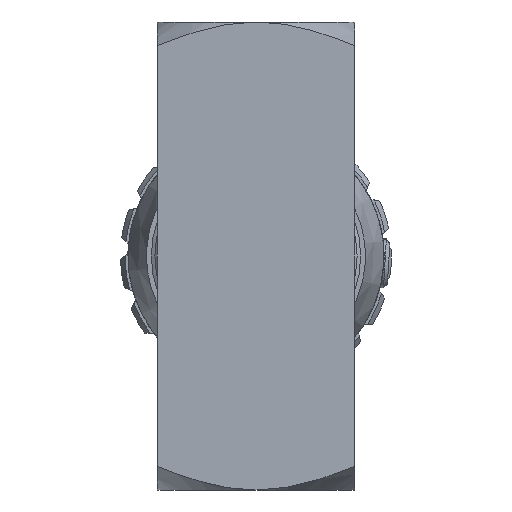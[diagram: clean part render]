
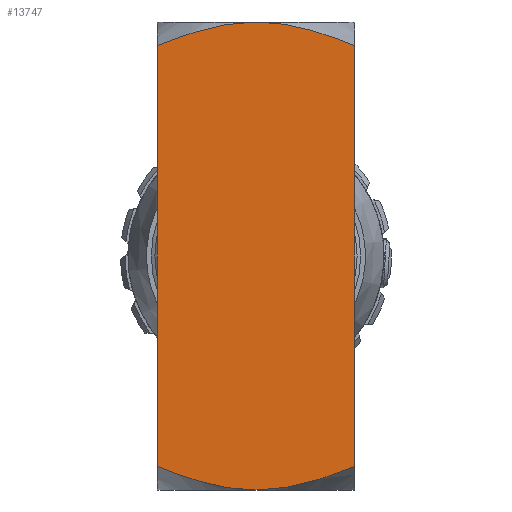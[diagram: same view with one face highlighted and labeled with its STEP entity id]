
A CAD part, front view. The second image highlights one B-rep face of the part: STEP entity #13747.
In plain terms, the highlighted planar face has unit normal (0, -1, 0).
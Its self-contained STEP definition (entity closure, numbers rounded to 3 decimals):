
#298 = CARTESIAN_POINT ( 'NONE',  ( -0.345, -8., 0. ) ) ;
#1124 = B_SPLINE_CURVE_WITH_KNOTS ( 'NONE', 3,
 ( #21951, #4081, #24972, #7065, #27985, #10016, #30972, #13056, #33915, #16083, #36934, #19070 ),
 .UNSPECIFIED., .F., .F.,
 ( 4, 2, 2, 2, 2, 4 ),
 ( 0.009, 0.011, 0.013, 0.015, 0.016, 0.017 ),
 .UNSPECIFIED. ) ;
#1387 = DIRECTION ( 'NONE',  ( 0., 0., 1. ) ) ;
#1778 = CARTESIAN_POINT ( 'NONE',  ( 8., -8., -1.913 ) ) ;
#2916 = VERTEX_POINT ( 'NONE', #36840 ) ;
#3330 = CARTESIAN_POINT ( 'NONE',  ( -1.384, -8., -0.064 ) ) ;
#4081 = CARTESIAN_POINT ( 'NONE',  ( -7.362, -8., -36.347 ) ) ;
#4272 = B_SPLINE_CURVE_WITH_KNOTS ( 'NONE', 3,
 ( #1778, #37535, #7816, #28722, #10763, #31722, #13777, #34686 ),
 .UNSPECIFIED., .F., .F.,
 ( 4, 2, 2, 4 ),
 ( 0.021, 0.023, 0.025, 0.029 ),
 .UNSPECIFIED. ) ;
#4401 = EDGE_CURVE ( 'NONE', #17566, #6275, #12526, .T. ) ;
#4480 = CARTESIAN_POINT ( 'NONE',  ( 0., -8., -38. ) ) ;
#4711 = EDGE_CURVE ( 'NONE', #20892, #19432, #24657, .T. ) ;
#6143 = CARTESIAN_POINT ( 'NONE',  ( -8., -8., -38. ) ) ;
#6275 = VERTEX_POINT ( 'NONE', #14953 ) ;
#6338 = CARTESIAN_POINT ( 'NONE',  ( -2.75, -8., -0.25 ) ) ;
#7065 = CARTESIAN_POINT ( 'NONE',  ( -5.411, -8., -37.051 ) ) ;
#7199 = ORIENTED_EDGE ( 'NONE', *, *, #9892, .T. ) ;
#7466 = CARTESIAN_POINT ( 'NONE',  ( 1.389, -8., -38. ) ) ;
#7528 = VECTOR ( 'NONE', #25080, 1000. ) ;
#7816 = CARTESIAN_POINT ( 'NONE',  ( 6.715, -8., -1.404 ) ) ;
#8755 = VECTOR ( 'NONE', #1387, 1000. ) ;
#9139 = DIRECTION ( 'NONE',  ( 0., 0., -1. ) ) ;
#9339 = CARTESIAN_POINT ( 'NONE',  ( -4.752, -8., -0.743 ) ) ;
#9892 = EDGE_CURVE ( 'NONE', #20892, #17566, #1124, .T. ) ;
#10016 = CARTESIAN_POINT ( 'NONE',  ( -3.422, -8., -37.607 ) ) ;
#10406 = CARTESIAN_POINT ( 'NONE',  ( 4.742, -8., -37.26 ) ) ;
#10763 = CARTESIAN_POINT ( 'NONE',  ( 4.742, -8., -0.74 ) ) ;
#12328 = CARTESIAN_POINT ( 'NONE',  ( -6.717, -8., -1.405 ) ) ;
#12526 = B_SPLINE_CURVE_WITH_KNOTS ( 'NONE', 3,
 ( #4480, #7466, #28373, #10406, #31372, #13429, #34312, #16476 ),
 .UNSPECIFIED., .F., .F.,
 ( 4, 2, 2, 4 ),
 ( 0.017, 0.021, 0.023, 0.025 ),
 .UNSPECIFIED. ) ;
#13056 = CARTESIAN_POINT ( 'NONE',  ( -1.728, -8., -37.897 ) ) ;
#13429 = CARTESIAN_POINT ( 'NONE',  ( 6.715, -8., -36.596 ) ) ;
#13747 = ADVANCED_FACE ( 'NONE', ( #33767 ), #32883, .T. ) ;
#13777 = CARTESIAN_POINT ( 'NONE',  ( 1.389, -8., 0. ) ) ;
#14953 = CARTESIAN_POINT ( 'NONE',  ( 8., -8., -36.087 ) ) ;
#15336 = CARTESIAN_POINT ( 'NONE',  ( -8., -8., -1.913 ) ) ;
#16083 = CARTESIAN_POINT ( 'NONE',  ( -0.693, -8., -37.987 ) ) ;
#16476 = CARTESIAN_POINT ( 'NONE',  ( 8., -8., -36.087 ) ) ;
#16840 = B_SPLINE_CURVE_WITH_KNOTS ( 'NONE', 3,
 ( #36087, #298, #21225, #3330, #24252, #6338, #27257, #9339, #30214, #12328, #33205, #15336 ),
 .UNSPECIFIED., .F., .F.,
 ( 4, 2, 2, 2, 2, 4 ),
 ( 0.029, 0.03, 0.031, 0.033, 0.035, 0.037 ),
 .UNSPECIFIED. ) ;
#16879 = ORIENTED_EDGE ( 'NONE', *, *, #4401, .T. ) ;
#17093 = AXIS2_PLACEMENT_3D ( 'NONE', #6143, #27041, #9139 ) ;
#17566 = VERTEX_POINT ( 'NONE', #27150 ) ;
#17740 = EDGE_LOOP ( 'NONE', ( #24449, #7199, #16879, #24592, #31959, #33663 ) ) ;
#19070 = CARTESIAN_POINT ( 'NONE',  ( 0., -8., -38. ) ) ;
#19432 = VERTEX_POINT ( 'NONE', #36179 ) ;
#20892 = VERTEX_POINT ( 'NONE', #27358 ) ;
#21225 = CARTESIAN_POINT ( 'NONE',  ( -0.693, -8., -0.013 ) ) ;
#21951 = CARTESIAN_POINT ( 'NONE',  ( -8., -8., -36.087 ) ) ;
#22266 = CARTESIAN_POINT ( 'NONE',  ( -8., -8., -38. ) ) ;
#24252 = CARTESIAN_POINT ( 'NONE',  ( -1.728, -8., -0.103 ) ) ;
#24449 = ORIENTED_EDGE ( 'NONE', *, *, #4711, .F. ) ;
#24592 = ORIENTED_EDGE ( 'NONE', *, *, #36957, .T. ) ;
#24657 = LINE ( 'NONE', #22266, #8755 ) ;
#24792 = CARTESIAN_POINT ( 'NONE',  ( 0., -8., 0. ) ) ;
#24972 = CARTESIAN_POINT ( 'NONE',  ( -6.717, -8., -36.595 ) ) ;
#25080 = DIRECTION ( 'NONE',  ( 0., 0., 1. ) ) ;
#25091 = EDGE_CURVE ( 'NONE', #2916, #31181, #4272, .T. ) ;
#27041 = DIRECTION ( 'NONE',  ( 0., -1., 0. ) ) ;
#27150 = CARTESIAN_POINT ( 'NONE',  ( 0., -8., -38. ) ) ;
#27257 = CARTESIAN_POINT ( 'NONE',  ( -3.422, -8., -0.393 ) ) ;
#27358 = CARTESIAN_POINT ( 'NONE',  ( -8., -8., -36.087 ) ) ;
#27985 = CARTESIAN_POINT ( 'NONE',  ( -4.752, -8., -37.257 ) ) ;
#28373 = CARTESIAN_POINT ( 'NONE',  ( 2.743, -8., -37.784 ) ) ;
#28722 = CARTESIAN_POINT ( 'NONE',  ( 5.405, -8., -0.947 ) ) ;
#30214 = CARTESIAN_POINT ( 'NONE',  ( -5.411, -8., -0.949 ) ) ;
#30969 = CARTESIAN_POINT ( 'NONE',  ( 8., -8., -38. ) ) ;
#30972 = CARTESIAN_POINT ( 'NONE',  ( -2.75, -8., -37.75 ) ) ;
#31181 = VERTEX_POINT ( 'NONE', #24792 ) ;
#31366 = LINE ( 'NONE', #30969, #7528 ) ;
#31372 = CARTESIAN_POINT ( 'NONE',  ( 5.405, -8., -37.053 ) ) ;
#31722 = CARTESIAN_POINT ( 'NONE',  ( 2.743, -8., -0.216 ) ) ;
#31959 = ORIENTED_EDGE ( 'NONE', *, *, #25091, .T. ) ;
#32883 = PLANE ( 'NONE',  #17093 ) ;
#33205 = CARTESIAN_POINT ( 'NONE',  ( -7.362, -8., -1.653 ) ) ;
#33663 = ORIENTED_EDGE ( 'NONE', *, *, #38635, .T. ) ;
#33767 = FACE_OUTER_BOUND ( 'NONE', #17740, .T. ) ;
#33915 = CARTESIAN_POINT ( 'NONE',  ( -1.384, -8., -37.936 ) ) ;
#34312 = CARTESIAN_POINT ( 'NONE',  ( 7.361, -8., -36.348 ) ) ;
#34686 = CARTESIAN_POINT ( 'NONE',  ( 0., -8., 0. ) ) ;
#36087 = CARTESIAN_POINT ( 'NONE',  ( 0., -8., 0. ) ) ;
#36179 = CARTESIAN_POINT ( 'NONE',  ( -8., -8., -1.913 ) ) ;
#36840 = CARTESIAN_POINT ( 'NONE',  ( 8., -8., -1.913 ) ) ;
#36934 = CARTESIAN_POINT ( 'NONE',  ( -0.345, -8., -38. ) ) ;
#36957 = EDGE_CURVE ( 'NONE', #6275, #2916, #31366, .T. ) ;
#37535 = CARTESIAN_POINT ( 'NONE',  ( 7.361, -8., -1.652 ) ) ;
#38635 = EDGE_CURVE ( 'NONE', #31181, #19432, #16840, .T. ) ;
